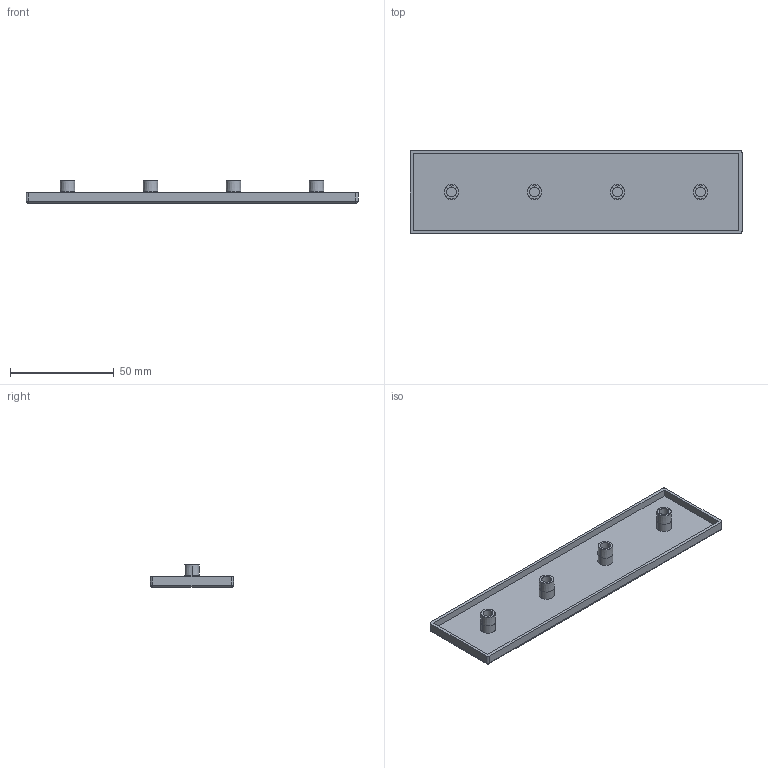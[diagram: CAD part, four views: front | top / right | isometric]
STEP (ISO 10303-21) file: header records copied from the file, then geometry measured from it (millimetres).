
FILE_DESCRIPTION (( 'STEP AP203' ), '1' );
FILE_NAME ('DEC40160.STEP', '2022-06-24T02:43:23', ( '' ), ( '' ), 'SwSTEP 2.0', 'SolidWorks 2017', '' );
FILE_SCHEMA (( 'CONFIG_CONTROL_DESIGN' ));
Length unit declared in the file: millimetre
Products named in the file (1): DEC40160
Bounding box: 160 x 40 x 10.8 mm (x, y, z)
Volume: 12397.9 mm3; surface area: 17360 mm2
Topology: 1 solids, 1 shells, 63 faces, 132 edges, 76 vertices
Faces by surface type: cylinder 24, plane 19, torus 8, cone 8, sphere 4
Entity records: 1727 total; most frequent: DIRECTION 328, CARTESIAN_POINT 268, ORIENTED_EDGE 256, AXIS2_PLACEMENT_3D 136, EDGE_CURVE 128, VERTEX_POINT 76, CIRCLE 72, EDGE_LOOP 72
